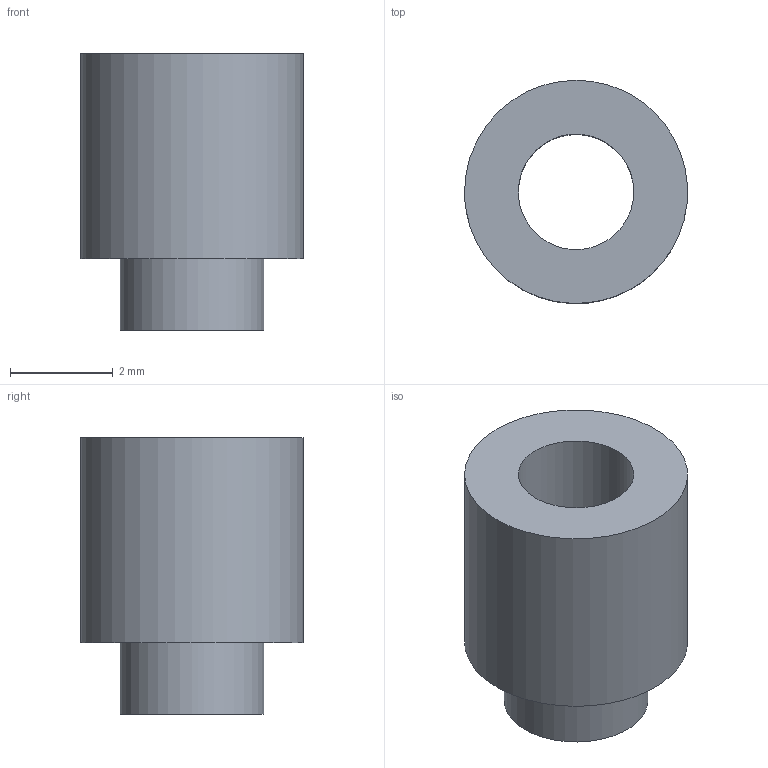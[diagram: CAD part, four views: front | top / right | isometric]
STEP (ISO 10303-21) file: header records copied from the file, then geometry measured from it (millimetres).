
FILE_DESCRIPTION(('FreeCAD Model'),'2;1');
FILE_NAME('Open CASCADE Shape Model','2026-03-20T17:23:11',('Author'),( ''),'Open CASCADE STEP processor 7.8','FreeCAD','Unknown');
FILE_SCHEMA(('AP242_MANAGED_MODEL_BASED_3D_ENGINEERING_MIM_LF. {1 0 10303 442 1 1 4 }'));
Length unit declared in the file: millimetre
Products named in the file (1): 1_transformed
Bounding box: 4.35 x 4.35 x 5.4 mm (x, y, z)
Volume: 47 mm3; surface area: 127.2 mm2
Topology: 1 solids, 1 shells, 6 faces, 9 edges, 6 vertices
Faces by surface type: bspline 6
Entity records: 201 total; most frequent: CARTESIAN_POINT 109, ORIENTED_EDGE 18, FACE_BOUND 9, EDGE_LOOP 9, EDGE_CURVE 9, ADVANCED_FACE 6, VERTEX_POINT 6, B_SPLINE_SURFACE_WITH_KNOTS 3
